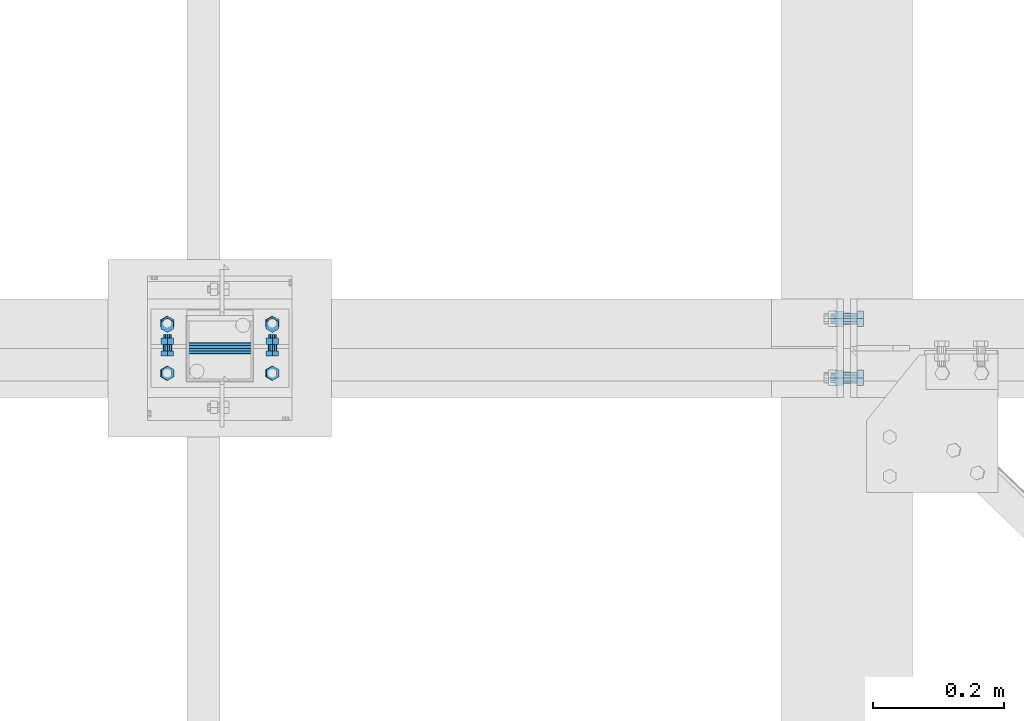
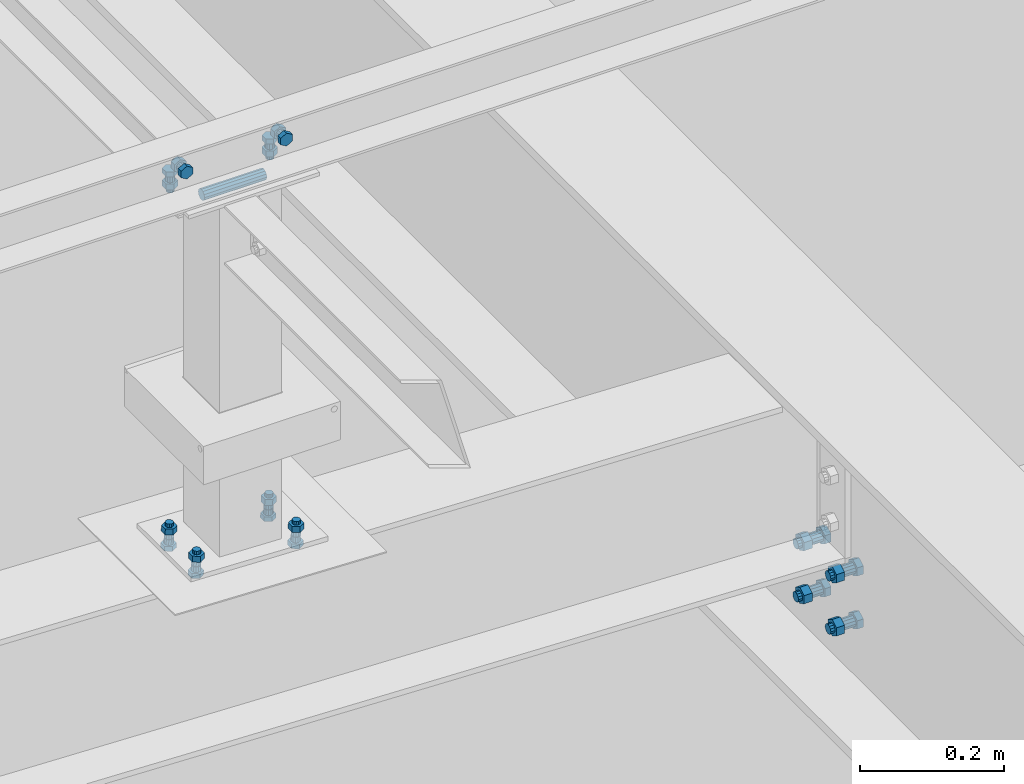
# One storey, part 215 of 3134: 6 mechanical fasteners, 3 elements without a shape of their own.
"""IFC2X3 building model written with IfcOpenShell, lengths in millimetres."""

from ifc_helpers import new_model, si_unit, frame, origin_with_axes, place, context, subcontext, project, spatial, faceted_brep, source, transform, mapped, material, type_object, element, aggregate, save


model = new_model("IFC2X3")

# Units and contexts
model_context = context("Model", 3, precision=1e-05, world=origin_with_axes())
body_context = subcontext(model_context, "Body", "Model", "MODEL_VIEW")
ifc_project = project(units=[si_unit("LENGTHUNIT", "METRE", prefix="MILLI"), si_unit("AREAUNIT", "SQUARE_METRE"), si_unit("VOLUMEUNIT", "CUBIC_METRE"), si_unit("MASSUNIT", "GRAM", prefix="KILO"), si_unit("TIMEUNIT", "SECOND"), si_unit("PLANEANGLEUNIT", "RADIAN"), si_unit("SOLIDANGLEUNIT", "STERADIAN"), si_unit("THERMODYNAMICTEMPERATUREUNIT", "DEGREE_CELSIUS"), si_unit("LUMINOUSINTENSITYUNIT", "LUMEN")], contexts=[model_context])

# Site, building, storey
site_placement = place(None, origin_with_axes())
site = spatial("IfcSite", under=ifc_project, at=site_placement, CompositionType="ELEMENT")
building_placement = place(site_placement, origin_with_axes())
building = spatial("IfcBuilding", under=site, at=building_placement, Name="Undefined", CompositionType="ELEMENT")
storey_placement = place(building_placement, origin_with_axes())
storey = spatial("IfcBuildingStorey", under=building, at=storey_placement, Name="Undefined", CompositionType="ELEMENT", Elevation=0.0)

# Assembly, mechanical fastener
assembly_1_placement = place(storey_placement, origin_with_axes())
assembly_1 = element("IfcElementAssembly", 1, at=assembly_1_placement, inside=storey, AssemblyPlace="NOTDEFINED", PredefinedType="RIGID_FRAME")
ifc_material = material(Name="8.8")
mechanical_fastener_type = type_object("IfcMechanicalFastenerType", Name="Bolt assembly")
shared_shape_1 = source(origin_with_axes(), body_context, "Body", "Brep", [
    faceted_brep([(10.9696551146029, -14.0, 0.0), (5.48482755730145, -14.0, 9.5), (-5.48482755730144, -14.0, 9.5), (-10.9696551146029, -14.0, 1.34339530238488e-15), (-5.48482755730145, -14.0, -9.5), (5.48482755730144, -14.0, -9.50000000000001), (5.48482755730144, -6.0, -9.50000000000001), (-5.48482755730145, -6.0, -9.5), (-10.9696551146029, -6.0, 1.34339530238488e-15), (-5.48482755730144, -6.0, 9.5), (5.48482755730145, -6.0, 9.5), (10.9696551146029, -6.0, 0.0), (6.0, -6.0, 0.0), (5.19615242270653, -6.0, 3.00000000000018), (2.99999999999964, -6.0, 5.19615242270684), (-6.21801588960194e-13, -6.0, 6.0), (-3.00000000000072, -6.0, 5.19615242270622), (-5.19615242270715, -6.0, 2.9999999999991), (-6.0, -6.0, -1.24360317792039e-12), (-5.19615242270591, -6.0, -3.00000000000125), (-2.99999999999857, -6.0, -5.19615242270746), (1.85874342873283e-12, -6.0, -6.0), (3.00000000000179, -6.0, -5.1961524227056), (5.19615242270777, -6.0, -2.99999999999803), (5.19615242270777, 24.0, -2.99999999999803), (3.00000000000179, 24.0, -5.1961524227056), (1.85874342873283e-12, 24.0, -6.0), (-2.99999999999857, 24.0, -5.19615242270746), (-5.19615242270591, 24.0, -3.00000000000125), (-6.0, 24.0, -1.24360317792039e-12), (-5.19615242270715, 24.0, 2.9999999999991), (-3.00000000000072, 24.0, 5.19615242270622), (-6.21801588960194e-13, 24.0, 6.0), (2.99999999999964, 24.0, 5.19615242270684), (5.19615242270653, 24.0, 3.00000000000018), (6.0, 24.0, 0.0), (10.9696551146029, 6.00000000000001, 0.0), (5.48482755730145, 6.00000000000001, 9.5), (-5.48482755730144, 6.00000000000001, 9.5), (-10.9696551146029, 6.00000000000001, 1.34339530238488e-15), (-5.48482755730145, 6.00000000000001, -9.5), (5.48482755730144, 6.00000000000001, -9.50000000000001), (5.48482755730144, 16.0, -9.50000000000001), (-5.48482755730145, 16.0, -9.5), (-10.9696551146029, 16.0, 1.34339530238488e-15), (-5.48482755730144, 16.0, 9.5), (5.48482755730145, 16.0, 9.5), (10.9696551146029, 16.0, 0.0)], [[[0, 1, 2, 3, 4, 5]], [[6, 7, 8, 9, 10, 11]], [[0, 11, 10, 1]], [[1, 10, 9, 2]], [[2, 9, 8, 3]], [[3, 8, 7, 4]], [[4, 7, 6, 5]], [[5, 6, 11, 0]], [[12, 13, 14, 15, 16, 17, 18, 19, 20, 21, 22, 23]], [[24, 25, 26, 27, 28, 29, 30, 31, 32, 33, 34, 35]], [[12, 35, 34, 13]], [[13, 34, 33, 14]], [[14, 33, 32, 15]], [[15, 32, 31, 16]], [[16, 31, 30, 17]], [[17, 30, 29, 18]], [[18, 29, 28, 19]], [[19, 28, 27, 20]], [[20, 27, 26, 21]], [[21, 26, 25, 22]], [[22, 25, 24, 23]], [[23, 24, 35, 12]], [[36, 37, 38, 39, 40, 41]], [[42, 43, 44, 45, 46, 47]], [[36, 47, 46, 37]], [[37, 46, 45, 38]], [[38, 45, 44, 39]], [[39, 44, 43, 40]], [[40, 43, 42, 41]], [[41, 42, 47, 36]]]),
    faceted_brep([(7.0, -0.1, 0.0), (6.06217782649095, -0.1, 3.50000000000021), (3.49999999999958, -0.1, 6.06217782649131), (-7.25435187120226e-13, -0.1, 7.0), (-3.50000000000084, -0.1, 6.06217782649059), (-6.06217782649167, -0.1, 3.49999999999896), (-7.0, -0.1, -1.45087037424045e-12), (-6.06217782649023, -0.1, -3.50000000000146), (-3.49999999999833, -0.1, -6.06217782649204), (2.1685340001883e-12, -0.1, -7.0), (3.50000000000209, -0.1, -6.06217782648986), (6.0621778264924, -0.1, -3.4999999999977), (6.0621778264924, 6.00000000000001, -3.4999999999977), (3.50000000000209, 6.00000000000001, -6.06217782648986), (2.1685340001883e-12, 6.00000000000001, -7.0), (-3.49999999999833, 6.00000000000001, -6.06217782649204), (-6.06217782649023, 6.00000000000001, -3.50000000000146), (-7.0, 6.00000000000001, -1.45087037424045e-12), (-6.06217782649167, 6.00000000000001, 3.49999999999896), (-3.50000000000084, 6.00000000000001, 6.06217782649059), (-7.25435187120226e-13, 6.00000000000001, 7.0), (3.49999999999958, 6.00000000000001, 6.06217782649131), (6.06217782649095, 6.00000000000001, 3.50000000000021), (7.0, 6.00000000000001, 0.0), (7.0, -5.9, 0.0), (6.06217782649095, -5.9, 3.50000000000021), (3.49999999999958, -5.9, 6.06217782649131), (-7.25435187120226e-13, -5.9, 7.0), (-3.50000000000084, -5.9, 6.06217782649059), (-6.06217782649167, -5.9, 3.49999999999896), (-7.0, -5.9, -1.45087037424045e-12), (-6.06217782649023, -5.9, -3.50000000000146), (-3.49999999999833, -5.9, -6.06217782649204), (2.1685340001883e-12, -5.9, -7.0), (3.50000000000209, -5.9, -6.06217782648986), (6.0621778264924, -5.9, -3.4999999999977), (6.0621778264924, 0.0999999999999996, -3.4999999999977), (3.50000000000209, 0.0999999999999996, -6.06217782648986), (2.1685340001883e-12, 0.0999999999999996, -7.0), (-3.49999999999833, 0.0999999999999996, -6.06217782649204), (-6.06217782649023, 0.0999999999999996, -3.50000000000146), (-7.0, 0.0999999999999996, -1.45087037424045e-12), (-6.06217782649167, 0.0999999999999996, 3.49999999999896), (-3.50000000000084, 0.0999999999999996, 6.06217782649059), (-7.25435187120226e-13, 0.0999999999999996, 7.0), (3.49999999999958, 0.0999999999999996, 6.06217782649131), (6.06217782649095, 0.0999999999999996, 3.50000000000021), (7.0, 0.0999999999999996, 0.0)], [[[0, 1, 2, 3, 4, 5, 6, 7, 8, 9, 10, 11]], [[12, 13, 14, 15, 16, 17, 18, 19, 20, 21, 22, 23]], [[0, 23, 22, 1]], [[1, 22, 21, 2]], [[2, 21, 20, 3]], [[3, 20, 19, 4]], [[4, 19, 18, 5]], [[5, 18, 17, 6]], [[6, 17, 16, 7]], [[7, 16, 15, 8]], [[8, 15, 14, 9]], [[9, 14, 13, 10]], [[10, 13, 12, 11]], [[11, 12, 23, 0]], [[24, 25, 26, 27, 28, 29, 30, 31, 32, 33, 34, 35]], [[36, 37, 38, 39, 40, 41, 42, 43, 44, 45, 46, 47]], [[24, 47, 46, 25]], [[25, 46, 45, 26]], [[26, 45, 44, 27]], [[27, 44, 43, 28]], [[28, 43, 42, 29]], [[29, 42, 41, 30]], [[30, 41, 40, 31]], [[31, 40, 39, 32]], [[32, 39, 38, 33]], [[33, 38, 37, 34]], [[34, 37, 36, 35]], [[35, 36, 47, 24]]]),
])
mechanical_fastener_1_placement = place(assembly_1_placement, frame((8340.0, 45801.66, 4365.0), z_axis=(1.0, 0.0, 0.0), x_axis=(0.0, -1.0, 0.0)))
mechanical_fastener_1 = element("IfcMechanicalFastener", 2, at=mechanical_fastener_1_placement, type_object=mechanical_fastener_type, material=ifc_material, Name="Bolt assembly", NominalDiameter=12.0, NominalLength=30.0, context=body_context, shape_type="MappedRepresentation", body=[
    mapped(shared_shape_1, transform((0.0, -5.32963895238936e-10, -79.9999999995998))),
    mapped(shared_shape_1, transform((0.0, 5.3114490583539e-10, 79.9999999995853))),
])

# Assembly, mechanical fasteners
assembly_2_placement = place(storey_placement, origin_with_axes())
assembly_2 = element("IfcElementAssembly", 3, at=assembly_2_placement, inside=storey, Name="IPE500", AssemblyPlace="NOTDEFINED", PredefinedType="RIGID_FRAME")
shared_shape_2 = source(origin_with_axes(), body_context, "Body", "Brep", [
    faceted_brep([(13.856406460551, -10.0, 0.0), (6.92820323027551, -10.0, 12.0), (-6.92820323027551, -10.0, 12.0), (-13.856406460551, -10.0, 1.69692038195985e-15), (-6.92820323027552, -10.0, -12.0), (6.9282032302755, -10.0, -12.0), (6.9282032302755, 0.0, -12.0), (-6.92820323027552, 0.0, -12.0), (-13.856406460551, 0.0, 1.69692038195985e-15), (-6.92820323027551, 0.0, 12.0), (6.92820323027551, 0.0, 12.0), (13.856406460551, 0.0, 0.0), (8.0, 0.0, 0.0), (6.92820323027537, 0.0, 4.00000000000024), (3.99999999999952, 0.0, 6.92820323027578), (-8.29068785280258e-13, 0.0, 8.0), (-4.00000000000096, 0.0, 6.92820323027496), (-6.9282032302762, 0.0, 3.99999999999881), (-8.0, 0.0, -1.65813757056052e-12), (-6.92820323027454, 0.0, -4.00000000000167), (-3.99999999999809, 0.0, -6.92820323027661), (2.47832457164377e-12, 0.0, -8.0), (4.00000000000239, 0.0, -6.92820323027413), (6.92820323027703, 0.0, -3.99999999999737), (6.92820323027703, 40.0, -3.99999999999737), (4.00000000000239, 40.0, -6.92820323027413), (2.47832457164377e-12, 40.0, -8.0), (-3.99999999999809, 40.0, -6.92820323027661), (-6.92820323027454, 40.0, -4.00000000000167), (-8.0, 40.0, -1.65813757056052e-12), (-6.9282032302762, 40.0, 3.99999999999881), (-4.00000000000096, 40.0, 6.92820323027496), (-8.29068785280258e-13, 40.0, 8.0), (3.99999999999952, 40.0, 6.92820323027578), (6.92820323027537, 40.0, 4.00000000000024), (8.0, 40.0, 0.0), (13.856406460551, 20.1999997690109, 0.0), (6.92820323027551, 20.1999997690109, 12.0), (-6.92820323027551, 20.1999997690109, 12.0), (-13.856406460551, 20.1999997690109, 1.69692038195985e-15), (-6.92820323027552, 20.1999997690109, -12.0), (6.9282032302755, 20.1999997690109, -12.0), (6.9282032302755, 33.1999997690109, -12.0), (-6.92820323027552, 33.1999997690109, -12.0), (-13.856406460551, 33.1999997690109, 1.69692038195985e-15), (-6.92820323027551, 33.1999997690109, 12.0), (6.92820323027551, 33.1999997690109, 12.0), (13.856406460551, 33.1999997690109, 0.0)], [[[0, 1, 2, 3, 4, 5]], [[6, 7, 8, 9, 10, 11]], [[0, 11, 10, 1]], [[1, 10, 9, 2]], [[2, 9, 8, 3]], [[3, 8, 7, 4]], [[4, 7, 6, 5]], [[5, 6, 11, 0]], [[12, 13, 14, 15, 16, 17, 18, 19, 20, 21, 22, 23]], [[24, 25, 26, 27, 28, 29, 30, 31, 32, 33, 34, 35]], [[12, 35, 34, 13]], [[13, 34, 33, 14]], [[14, 33, 32, 15]], [[15, 32, 31, 16]], [[16, 31, 30, 17]], [[17, 30, 29, 18]], [[18, 29, 28, 19]], [[19, 28, 27, 20]], [[20, 27, 26, 21]], [[21, 26, 25, 22]], [[22, 25, 24, 23]], [[23, 24, 35, 12]], [[36, 37, 38, 39, 40, 41]], [[42, 43, 44, 45, 46, 47]], [[36, 47, 46, 37]], [[37, 46, 45, 38]], [[38, 45, 44, 39]], [[39, 44, 43, 40]], [[40, 43, 42, 41]], [[41, 42, 47, 36]]]),
    faceted_brep([(9.0, 0.100000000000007, 0.0), (7.79422863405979, 0.100000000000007, 4.50000000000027), (4.49999999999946, 0.100000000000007, 7.79422863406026), (-9.3270238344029e-13, 0.100000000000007, 9.0), (-4.50000000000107, 0.100000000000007, 7.79422863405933), (-7.79422863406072, 0.100000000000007, 4.49999999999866), (-9.0, 0.100000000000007, -1.86540476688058e-12), (-7.79422863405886, 0.100000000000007, -4.50000000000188), (-4.49999999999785, 0.100000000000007, -7.79422863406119), (2.78811514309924e-12, 0.100000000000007, -9.0), (4.50000000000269, 0.100000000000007, -7.7942286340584), (7.79422863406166, 0.100000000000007, -4.49999999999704), (7.79422863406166, 10.1000023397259, -4.49999999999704), (4.50000000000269, 10.1000023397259, -7.7942286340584), (2.78811514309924e-12, 10.1000023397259, -9.0), (-4.49999999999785, 10.1000023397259, -7.79422863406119), (-7.79422863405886, 10.1000023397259, -4.50000000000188), (-9.0, 10.1000023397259, -1.86540476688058e-12), (-7.79422863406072, 10.1000023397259, 4.49999999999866), (-4.50000000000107, 10.1000023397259, 7.79422863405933), (-9.3270238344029e-13, 10.1000023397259, 9.0), (4.49999999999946, 10.1000023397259, 7.79422863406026), (7.79422863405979, 10.1000023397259, 4.50000000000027), (9.0, 10.1000023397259, 0.0), (9.0, 9.89999999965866, 0.0), (7.79422863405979, 9.89999999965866, 4.50000000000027), (4.49999999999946, 9.89999999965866, 7.79422863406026), (-9.3270238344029e-13, 9.89999999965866, 9.0), (-4.50000000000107, 9.89999999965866, 7.79422863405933), (-7.79422863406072, 9.89999999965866, 4.49999999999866), (-9.0, 9.89999999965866, -1.86540476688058e-12), (-7.79422863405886, 9.89999999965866, -4.50000000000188), (-4.49999999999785, 9.89999999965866, -7.79422863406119), (2.78811514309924e-12, 9.89999999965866, -9.0), (4.50000000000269, 9.89999999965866, -7.7942286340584), (7.79422863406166, 9.89999999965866, -4.49999999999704), (7.79422863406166, 20.1999997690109, -4.49999999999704), (4.50000000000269, 20.1999997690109, -7.7942286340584), (2.78811514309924e-12, 20.1999997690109, -9.0), (-4.49999999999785, 20.1999997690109, -7.79422863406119), (-7.79422863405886, 20.1999997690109, -4.50000000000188), (-9.0, 20.1999997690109, -1.86540476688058e-12), (-7.79422863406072, 20.1999997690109, 4.49999999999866), (-4.50000000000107, 20.1999997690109, 7.79422863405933), (-9.3270238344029e-13, 20.1999997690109, 9.0), (4.49999999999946, 20.1999997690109, 7.79422863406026), (7.79422863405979, 20.1999997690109, 4.50000000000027), (9.0, 20.1999997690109, 0.0)], [[[0, 1, 2, 3, 4, 5, 6, 7, 8, 9, 10, 11]], [[12, 13, 14, 15, 16, 17, 18, 19, 20, 21, 22, 23]], [[0, 23, 22, 1]], [[1, 22, 21, 2]], [[2, 21, 20, 3]], [[3, 20, 19, 4]], [[4, 19, 18, 5]], [[5, 18, 17, 6]], [[6, 17, 16, 7]], [[7, 16, 15, 8]], [[8, 15, 14, 9]], [[9, 14, 13, 10]], [[10, 13, 12, 11]], [[11, 12, 23, 0]], [[24, 25, 26, 27, 28, 29, 30, 31, 32, 33, 34, 35]], [[36, 37, 38, 39, 40, 41, 42, 43, 44, 45, 46, 47]], [[24, 47, 46, 25]], [[25, 46, 45, 26]], [[26, 45, 44, 27]], [[27, 44, 43, 28]], [[28, 43, 42, 29]], [[29, 42, 41, 30]], [[30, 41, 40, 31]], [[31, 40, 39, 32]], [[32, 39, 38, 33]], [[33, 38, 37, 34]], [[34, 37, 36, 35]], [[35, 36, 47, 24]]]),
])
mechanical_fastener_2_placement = place(assembly_2_placement, frame((9310.09999986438, 45721.67, 3381.67000001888), z_axis=(0.0, 1.0, 0.0), x_axis=(0.0, 0.0, -1.0)))
mechanical_fastener_2 = element("IfcMechanicalFastener", 4, at=mechanical_fastener_2_placement, type_object=mechanical_fastener_type, material=ifc_material, Name="Bolt assembly", NominalDiameter=16.0, NominalLength=40.0, context=body_context, shape_type="MappedRepresentation", body=[
    mapped(shared_shape_2, transform((0.0, 0.0, 0.0))),
    mapped(shared_shape_2, transform((90.0, 0.0, 0.0))),
])
mechanical_fastener_3_placement = place(assembly_2_placement, frame((9310.09999986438, 45811.67, 3381.67000001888), z_axis=(0.0, 1.0, 0.0), x_axis=(0.0, 0.0, -1.0)))
mechanical_fastener_3 = element("IfcMechanicalFastener", 5, at=mechanical_fastener_3_placement, type_object=mechanical_fastener_type, material=ifc_material, Name="Bolt assembly", NominalDiameter=16.0, NominalLength=40.0, context=body_context, shape_type="MappedRepresentation", body=[
    mapped(shared_shape_2, transform((0.0, 0.0, 0.0))),
    mapped(shared_shape_2, transform((90.0, 0.0, 0.0))),
])
aggregate(assembly_2, [mechanical_fastener_2, mechanical_fastener_3])

assembly_3_placement = place(storey_placement, origin_with_axes())
assembly_3 = element("IfcElementAssembly", 6, at=assembly_3_placement, inside=storey, AssemblyPlace="NOTDEFINED", PredefinedType="RIGID_FRAME")
shared_shape_3 = source(origin_with_axes(), body_context, "Body", "Brep", [
    faceted_brep([(10.9696551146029, -4.18346828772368, 0.0), (5.48482755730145, -4.18346828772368, 9.5), (-5.48482755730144, -4.18346828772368, 9.5), (-10.9696551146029, -4.18346828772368, 1.34339530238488e-15), (-5.48482755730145, -4.18346828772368, -9.5), (5.48482755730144, -4.18346828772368, -9.50000000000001), (5.48482755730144, 3.81653171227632, -9.50000000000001), (-5.48482755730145, 3.81653171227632, -9.5), (-10.9696551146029, 3.81653171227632, 1.34339530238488e-15), (-5.48482755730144, 3.81653171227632, 9.5), (5.48482755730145, 3.81653171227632, 9.5), (10.9696551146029, 3.81653171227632, 0.0), (6.0, 3.81653171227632, 0.0), (5.19615242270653, 3.81653171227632, 3.00000000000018), (2.99999999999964, 3.81653171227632, 5.19615242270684), (-6.21801588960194e-13, 3.81653171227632, 6.0), (-3.00000000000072, 3.81653171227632, 5.19615242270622), (-5.19615242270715, 3.81653171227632, 2.9999999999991), (-6.0, 3.81653171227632, -1.24360317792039e-12), (-5.19615242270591, 3.81653171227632, -3.00000000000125), (-2.99999999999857, 3.81653171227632, -5.19615242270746), (1.85874342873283e-12, 3.81653171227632, -6.0), (3.00000000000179, 3.81653171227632, -5.1961524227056), (5.19615242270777, 3.81653171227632, -2.99999999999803), (5.19615242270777, 38.8165317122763, -2.99999999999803), (3.00000000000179, 38.8165317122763, -5.1961524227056), (1.85874342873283e-12, 38.8165317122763, -6.0), (-2.99999999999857, 38.8165317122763, -5.19615242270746), (-5.19615242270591, 38.8165317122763, -3.00000000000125), (-6.0, 38.8165317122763, -1.24360317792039e-12), (-5.19615242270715, 38.8165317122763, 2.9999999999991), (-3.00000000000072, 38.8165317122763, 5.19615242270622), (-6.21801588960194e-13, 38.8165317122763, 6.0), (2.99999999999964, 38.8165317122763, 5.19615242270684), (5.19615242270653, 38.8165317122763, 3.00000000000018), (6.0, 38.8165317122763, 0.0), (10.9696551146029, 23.0139082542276, 0.0), (5.48482755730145, 23.0139082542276, 9.5), (-5.48482755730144, 23.0139082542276, 9.5), (-10.9696551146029, 23.0139082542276, 1.34339530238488e-15), (-5.48482755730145, 23.0139082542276, -9.5), (5.48482755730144, 23.0139082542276, -9.50000000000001), (5.48482755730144, 33.0139082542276, -9.50000000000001), (-5.48482755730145, 33.0139082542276, -9.5), (-10.9696551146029, 33.0139082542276, 1.34339530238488e-15), (-5.48482755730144, 33.0139082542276, 9.5), (5.48482755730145, 33.0139082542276, 9.5), (10.9696551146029, 33.0139082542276, 0.0)], [[[0, 1, 2, 3, 4, 5]], [[6, 7, 8, 9, 10, 11]], [[0, 11, 10, 1]], [[1, 10, 9, 2]], [[2, 9, 8, 3]], [[3, 8, 7, 4]], [[4, 7, 6, 5]], [[5, 6, 11, 0]], [[12, 13, 14, 15, 16, 17, 18, 19, 20, 21, 22, 23]], [[24, 25, 26, 27, 28, 29, 30, 31, 32, 33, 34, 35]], [[12, 35, 34, 13]], [[13, 34, 33, 14]], [[14, 33, 32, 15]], [[15, 32, 31, 16]], [[16, 31, 30, 17]], [[17, 30, 29, 18]], [[18, 29, 28, 19]], [[19, 28, 27, 20]], [[20, 27, 26, 21]], [[21, 26, 25, 22]], [[22, 25, 24, 23]], [[23, 24, 35, 12]], [[36, 37, 38, 39, 40, 41]], [[42, 43, 44, 45, 46, 47]], [[36, 47, 46, 37]], [[37, 46, 45, 38]], [[38, 45, 44, 39]], [[39, 44, 43, 40]], [[40, 43, 42, 41]], [[41, 42, 47, 36]]]),
    faceted_brep([(7.0, 3.91653171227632, 0.0), (6.06217782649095, 3.91653171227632, 3.50000000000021), (3.49999999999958, 3.91653171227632, 6.06217782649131), (-7.25435187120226e-13, 3.91653171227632, 7.0), (-3.50000000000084, 3.91653171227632, 6.06217782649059), (-6.06217782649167, 3.91653171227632, 3.49999999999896), (-7.0, 3.91653171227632, -1.45087037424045e-12), (-6.06217782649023, 3.91653171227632, -3.50000000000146), (-3.49999999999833, 3.91653171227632, -6.06217782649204), (2.1685340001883e-12, 3.91653171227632, -7.0), (3.50000000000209, 3.91653171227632, -6.06217782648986), (6.0621778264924, 3.91653171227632, -3.4999999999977), (6.0621778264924, 13.1165315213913, -3.4999999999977), (3.50000000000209, 13.1165315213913, -6.06217782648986), (2.1685340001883e-12, 13.1165315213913, -7.0), (-3.49999999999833, 13.1165315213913, -6.06217782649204), (-6.06217782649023, 13.1165315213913, -3.50000000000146), (-7.0, 13.1165315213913, -1.45087037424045e-12), (-6.06217782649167, 13.1165315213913, 3.49999999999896), (-3.50000000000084, 13.1165315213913, 6.06217782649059), (-7.25435187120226e-13, 13.1165315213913, 7.0), (3.49999999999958, 13.1165315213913, 6.06217782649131), (6.06217782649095, 13.1165315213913, 3.50000000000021), (7.0, 13.1165315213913, 0.0), (7.0, 14.9139082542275, 0.0), (6.06217782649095, 14.9139082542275, 3.50000000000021), (3.49999999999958, 14.9139082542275, 6.06217782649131), (-7.25435187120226e-13, 14.9139082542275, 7.0), (-3.50000000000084, 14.9139082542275, 6.06217782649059), (-6.06217782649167, 14.9139082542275, 3.49999999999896), (-7.0, 14.9139082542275, -1.45087037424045e-12), (-6.06217782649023, 14.9139082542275, -3.50000000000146), (-3.49999999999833, 14.9139082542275, -6.06217782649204), (2.1685340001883e-12, 14.9139082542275, -7.0), (3.50000000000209, 14.9139082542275, -6.06217782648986), (6.0621778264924, 14.9139082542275, -3.4999999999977), (6.0621778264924, 23.0139082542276, -3.4999999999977), (3.50000000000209, 23.0139082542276, -6.06217782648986), (2.1685340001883e-12, 23.0139082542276, -7.0), (-3.49999999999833, 23.0139082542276, -6.06217782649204), (-6.06217782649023, 23.0139082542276, -3.50000000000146), (-7.0, 23.0139082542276, -1.45087037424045e-12), (-6.06217782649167, 23.0139082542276, 3.49999999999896), (-3.50000000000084, 23.0139082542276, 6.06217782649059), (-7.25435187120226e-13, 23.0139082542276, 7.0), (3.49999999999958, 23.0139082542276, 6.06217782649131), (6.06217782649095, 23.0139082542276, 3.50000000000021), (7.0, 23.0139082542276, 0.0)], [[[0, 1, 2, 3, 4, 5, 6, 7, 8, 9, 10, 11]], [[12, 13, 14, 15, 16, 17, 18, 19, 20, 21, 22, 23]], [[0, 23, 22, 1]], [[1, 22, 21, 2]], [[2, 21, 20, 3]], [[3, 20, 19, 4]], [[4, 19, 18, 5]], [[5, 18, 17, 6]], [[6, 17, 16, 7]], [[7, 16, 15, 8]], [[8, 15, 14, 9]], [[9, 14, 13, 10]], [[10, 13, 12, 11]], [[11, 12, 23, 0]], [[24, 25, 26, 27, 28, 29, 30, 31, 32, 33, 34, 35]], [[36, 37, 38, 39, 40, 41, 42, 43, 44, 45, 46, 47]], [[24, 47, 46, 25]], [[25, 46, 45, 26]], [[26, 45, 44, 27]], [[27, 44, 43, 28]], [[28, 43, 42, 29]], [[29, 42, 41, 30]], [[30, 41, 40, 31]], [[31, 40, 39, 32]], [[32, 39, 38, 33]], [[33, 38, 37, 34]], [[34, 37, 36, 35]], [[35, 36, 47, 24]]]),
])
mechanical_fastener_4_placement = place(assembly_3_placement, frame((8339.1931765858, 45804.6599999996, 3735.10000668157), z_axis=(-0.999387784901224, 0.0, 0.0349865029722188), x_axis=(0.0, -1.0, 0.0)))
mechanical_fastener_4 = element("IfcMechanicalFastener", 7, at=mechanical_fastener_4_placement, type_object=mechanical_fastener_type, material=ifc_material, Name="Bolt assembly", NominalDiameter=12.0, NominalLength=35.0, context=body_context, shape_type="MappedRepresentation", body=[
    mapped(shared_shape_3, transform((0.0, -5.32963895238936e-10, -79.9999999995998))),
    mapped(shared_shape_3, transform((76.0, -5.32963895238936e-10, -79.9999999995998))),
    mapped(shared_shape_3, transform((0.0, 5.3114490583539e-10, 79.9999999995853))),
    mapped(shared_shape_3, transform((76.0, 5.3114490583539e-10, 79.9999999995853))),
])
shared_shape_4 = source(origin_with_axes(), body_context, "Body", "Brep", [
    faceted_brep([(9.0, -50.0, 0.0), (7.79422863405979, -50.0, 4.50000000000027), (4.49999999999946, -50.0, 7.79422863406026), (-9.3270238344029e-13, -50.0, 9.0), (-4.50000000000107, -50.0, 7.79422863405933), (-7.79422863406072, -50.0, 4.49999999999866), (-9.0, -50.0, -1.86540476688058e-12), (-7.79422863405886, -50.0, -4.50000000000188), (-4.49999999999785, -50.0, -7.79422863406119), (2.78811514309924e-12, -50.0, -9.0), (4.50000000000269, -50.0, -7.7942286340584), (7.79422863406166, -50.0, -4.49999999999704), (7.79422863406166, 50.1, -4.49999999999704), (4.50000000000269, 50.1, -7.7942286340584), (2.78811514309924e-12, 50.1, -9.0), (-4.49999999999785, 50.1, -7.79422863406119), (-7.79422863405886, 50.1, -4.50000000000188), (-9.0, 50.1, -1.86540476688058e-12), (-7.79422863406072, 50.1, 4.49999999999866), (-4.50000000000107, 50.1, 7.79422863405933), (-9.3270238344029e-13, 50.1, 9.0), (4.49999999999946, 50.1, 7.79422863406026), (7.79422863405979, 50.1, 4.50000000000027), (9.0, 50.1, 0.0)], [[[0, 1, 2, 3, 4, 5, 6, 7, 8, 9, 10, 11]], [[12, 13, 14, 15, 16, 17, 18, 19, 20, 21, 22, 23]], [[0, 23, 22, 1]], [[1, 22, 21, 2]], [[2, 21, 20, 3]], [[3, 20, 19, 4]], [[4, 19, 18, 5]], [[5, 18, 17, 6]], [[6, 17, 16, 7]], [[7, 16, 15, 8]], [[8, 15, 14, 9]], [[9, 14, 13, 10]], [[10, 13, 12, 11]], [[11, 12, 23, 0]]]),
])
mechanical_fastener_5_placement = place(assembly_3_placement, frame((8340.0, 45766.66, 4345.0), z_axis=(0.0, 1.0, 0.0), x_axis=(0.0, 0.0, 1.0)))
mechanical_fastener_5 = element("IfcMechanicalFastener", 8, at=mechanical_fastener_5_placement, type_object=mechanical_fastener_type, material=ifc_material, Name="Bolt assembly", NominalDiameter=16.0, NominalLength=100.0, context=body_context, shape_type="MappedRepresentation", body=[
    mapped(shared_shape_4, transform((0.0, 0.0, 0.0))),
])
aggregate(assembly_3, [mechanical_fastener_4, mechanical_fastener_5])

# Mechanical fastener
shared_shape_5 = source(origin_with_axes(), body_context, "Body", "Brep", [
    faceted_brep([(10.9696551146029, -12.0, 0.0), (5.48482755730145, -12.0, 9.5), (-5.48482755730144, -12.0, 9.5), (-10.9696551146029, -12.0, 1.34339530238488e-15), (-5.48482755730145, -12.0, -9.5), (5.48482755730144, -12.0, -9.50000000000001), (5.48482755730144, -4.0, -9.50000000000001), (-5.48482755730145, -4.0, -9.5), (-10.9696551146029, -4.0, 1.34339530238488e-15), (-5.48482755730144, -4.0, 9.5), (5.48482755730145, -4.0, 9.5), (10.9696551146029, -4.0, 0.0), (6.0, -4.0, 0.0), (5.19615242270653, -4.0, 3.00000000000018), (2.99999999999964, -4.0, 5.19615242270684), (-6.21801588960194e-13, -4.0, 6.0), (-3.00000000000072, -4.0, 5.19615242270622), (-5.19615242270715, -4.0, 2.9999999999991), (-6.0, -4.0, -1.24360317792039e-12), (-5.19615242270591, -4.0, -3.00000000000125), (-2.99999999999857, -4.0, -5.19615242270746), (1.85874342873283e-12, -4.0, -6.0), (3.00000000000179, -4.0, -5.1961524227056), (5.19615242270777, -4.0, -2.99999999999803), (5.19615242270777, 21.0, -2.99999999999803), (3.00000000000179, 21.0, -5.1961524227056), (1.85874342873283e-12, 21.0, -6.0), (-2.99999999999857, 21.0, -5.19615242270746), (-5.19615242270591, 21.0, -3.00000000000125), (-6.0, 21.0, -1.24360317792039e-12), (-5.19615242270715, 21.0, 2.9999999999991), (-3.00000000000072, 21.0, 5.19615242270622), (-6.21801588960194e-13, 21.0, 6.0), (2.99999999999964, 21.0, 5.19615242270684), (5.19615242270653, 21.0, 3.00000000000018), (6.0, 21.0, 0.0), (10.9696551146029, 6.00000000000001, 0.0), (5.48482755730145, 6.00000000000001, 9.5), (-5.48482755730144, 6.00000000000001, 9.5), (-10.9696551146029, 6.00000000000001, 1.34339530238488e-15), (-5.48482755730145, 6.00000000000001, -9.5), (5.48482755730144, 6.00000000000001, -9.50000000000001), (5.48482755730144, 16.0, -9.50000000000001), (-5.48482755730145, 16.0, -9.5), (-10.9696551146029, 16.0, 1.34339530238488e-15), (-5.48482755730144, 16.0, 9.5), (5.48482755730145, 16.0, 9.5), (10.9696551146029, 16.0, 0.0)], [[[0, 1, 2, 3, 4, 5]], [[6, 7, 8, 9, 10, 11]], [[0, 11, 10, 1]], [[1, 10, 9, 2]], [[2, 9, 8, 3]], [[3, 8, 7, 4]], [[4, 7, 6, 5]], [[5, 6, 11, 0]], [[12, 13, 14, 15, 16, 17, 18, 19, 20, 21, 22, 23]], [[24, 25, 26, 27, 28, 29, 30, 31, 32, 33, 34, 35]], [[12, 35, 34, 13]], [[13, 34, 33, 14]], [[14, 33, 32, 15]], [[15, 32, 31, 16]], [[16, 31, 30, 17]], [[17, 30, 29, 18]], [[18, 29, 28, 19]], [[19, 28, 27, 20]], [[20, 27, 26, 21]], [[21, 26, 25, 22]], [[22, 25, 24, 23]], [[23, 24, 35, 12]], [[36, 37, 38, 39, 40, 41]], [[42, 43, 44, 45, 46, 47]], [[36, 47, 46, 37]], [[37, 46, 45, 38]], [[38, 45, 44, 39]], [[39, 44, 43, 40]], [[40, 43, 42, 41]], [[41, 42, 47, 36]]]),
    faceted_brep([(7.0, -3.9, 0.0), (6.06217782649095, -3.9, 3.50000000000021), (3.49999999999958, -3.9, 6.06217782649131), (-7.25435187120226e-13, -3.9, 7.0), (-3.50000000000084, -3.9, 6.06217782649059), (-6.06217782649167, -3.9, 3.49999999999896), (-7.0, -3.9, -1.45087037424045e-12), (-6.06217782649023, -3.9, -3.50000000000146), (-3.49999999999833, -3.9, -6.06217782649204), (2.1685340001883e-12, -3.9, -7.0), (3.50000000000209, -3.9, -6.06217782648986), (6.0621778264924, -3.9, -3.4999999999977), (6.0621778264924, 0.0999999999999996, -3.4999999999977), (3.50000000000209, 0.0999999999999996, -6.06217782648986), (2.1685340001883e-12, 0.0999999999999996, -7.0), (-3.49999999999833, 0.0999999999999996, -6.06217782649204), (-6.06217782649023, 0.0999999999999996, -3.50000000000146), (-7.0, 0.0999999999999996, -1.45087037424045e-12), (-6.06217782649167, 0.0999999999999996, 3.49999999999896), (-3.50000000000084, 0.0999999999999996, 6.06217782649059), (-7.25435187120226e-13, 0.0999999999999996, 7.0), (3.49999999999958, 0.0999999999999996, 6.06217782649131), (6.06217782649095, 0.0999999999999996, 3.50000000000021), (7.0, 0.0999999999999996, 0.0), (7.0, -0.1, 0.0), (6.06217782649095, -0.1, 3.50000000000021), (3.49999999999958, -0.1, 6.06217782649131), (-7.25435187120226e-13, -0.1, 7.0), (-3.50000000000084, -0.1, 6.06217782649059), (-6.06217782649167, -0.1, 3.49999999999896), (-7.0, -0.1, -1.45087037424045e-12), (-6.06217782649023, -0.1, -3.50000000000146), (-3.49999999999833, -0.1, -6.06217782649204), (2.1685340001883e-12, -0.1, -7.0), (3.50000000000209, -0.1, -6.06217782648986), (6.0621778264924, -0.1, -3.4999999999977), (6.0621778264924, 6.00000000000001, -3.4999999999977), (3.50000000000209, 6.00000000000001, -6.06217782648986), (2.1685340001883e-12, 6.00000000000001, -7.0), (-3.49999999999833, 6.00000000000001, -6.06217782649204), (-6.06217782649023, 6.00000000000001, -3.50000000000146), (-7.0, 6.00000000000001, -1.45087037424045e-12), (-6.06217782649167, 6.00000000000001, 3.49999999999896), (-3.50000000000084, 6.00000000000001, 6.06217782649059), (-7.25435187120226e-13, 6.00000000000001, 7.0), (3.49999999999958, 6.00000000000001, 6.06217782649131), (6.06217782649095, 6.00000000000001, 3.50000000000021), (7.0, 6.00000000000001, 0.0)], [[[0, 1, 2, 3, 4, 5, 6, 7, 8, 9, 10, 11]], [[12, 13, 14, 15, 16, 17, 18, 19, 20, 21, 22, 23]], [[0, 23, 22, 1]], [[1, 22, 21, 2]], [[2, 21, 20, 3]], [[3, 20, 19, 4]], [[4, 19, 18, 5]], [[5, 18, 17, 6]], [[6, 17, 16, 7]], [[7, 16, 15, 8]], [[8, 15, 14, 9]], [[9, 14, 13, 10]], [[10, 13, 12, 11]], [[11, 12, 23, 0]], [[24, 25, 26, 27, 28, 29, 30, 31, 32, 33, 34, 35]], [[36, 37, 38, 39, 40, 41, 42, 43, 44, 45, 46, 47]], [[24, 47, 46, 25]], [[25, 46, 45, 26]], [[26, 45, 44, 27]], [[27, 44, 43, 28]], [[28, 43, 42, 29]], [[29, 42, 41, 30]], [[30, 41, 40, 31]], [[31, 40, 39, 32]], [[32, 39, 38, 33]], [[33, 38, 37, 34]], [[34, 37, 36, 35]], [[35, 36, 47, 24]]]),
])
mechanical_fastener_6_placement = place(assembly_1_placement, frame((8340.0, 45766.66, 4400.0), z_axis=(1.0, 0.0, 0.0), x_axis=(0.0, 0.0, -1.0)))
mechanical_fastener_6 = element("IfcMechanicalFastener", 9, at=mechanical_fastener_6_placement, type_object=mechanical_fastener_type, material=ifc_material, Name="Bolt assembly", NominalDiameter=12.0, NominalLength=25.0, context=body_context, shape_type="MappedRepresentation", body=[
    mapped(shared_shape_5, transform((0.0, -5.32963895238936e-10, -79.9999999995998))),
    mapped(shared_shape_5, transform((0.0, 5.3114490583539e-10, 79.9999999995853))),
])

aggregate(assembly_1, [mechanical_fastener_6, mechanical_fastener_1])

save(model, "model.ifc")
